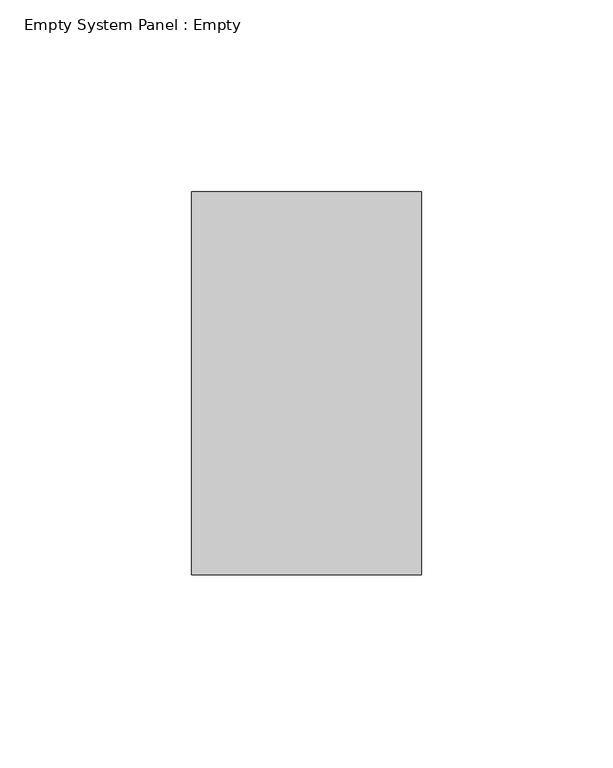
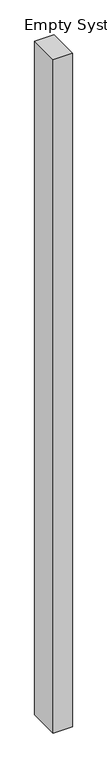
"""IFC4 building model written with IfcOpenShell, lengths in millimetres: plate geometry, Empty System Panel : Empty."""

from ifc_helpers import new_model, si_unit, origin, origin_with_axes, place, context, project, spatial, polyline, outline, extrude, source, transform, mapped, element, save


def empty_system_panel_empty_b4a5b46b(model_context):
    return source(origin(), model_context, "Body", "SweptSolid", [
        extrude(outline(polyline([(30.0, 50.0), (-30.0, 50.0), (-30.0, 150.0), (30.0, 150.0), (30.0, 50.0)])), origin_with_axes(), (0.0, 0.0, 1.0), 2225.0),
    ])


if __name__ == "__main__":
    model = new_model("IFC4")
    model_context = context("Model", 3, world=origin())
    ifc_project = project(units=[si_unit("LENGTHUNIT", "METRE", prefix="MILLI")], contexts=[model_context])
    site = spatial("IfcSite", under=ifc_project)
    building = spatial("IfcBuilding", under=site)
    placement = place(None, origin())
    empty_system_panel_empty_shape = empty_system_panel_empty_b4a5b46b(model_context)
    element("IfcPlate", 1, ObjectType="Empty System Panel : Empty", at=placement, inside=building, context=model_context, shape_type="MappedRepresentation", body=[
        mapped(empty_system_panel_empty_shape, transform((0.0, 0.0, 0.0), x_axis=(1.0, 0.0, 0.0), y_axis=(0.0, 1.0, 0.0), z_axis=(0.0, 0.0, 1.0))),
    ])
    save(model, "model.ifc")
